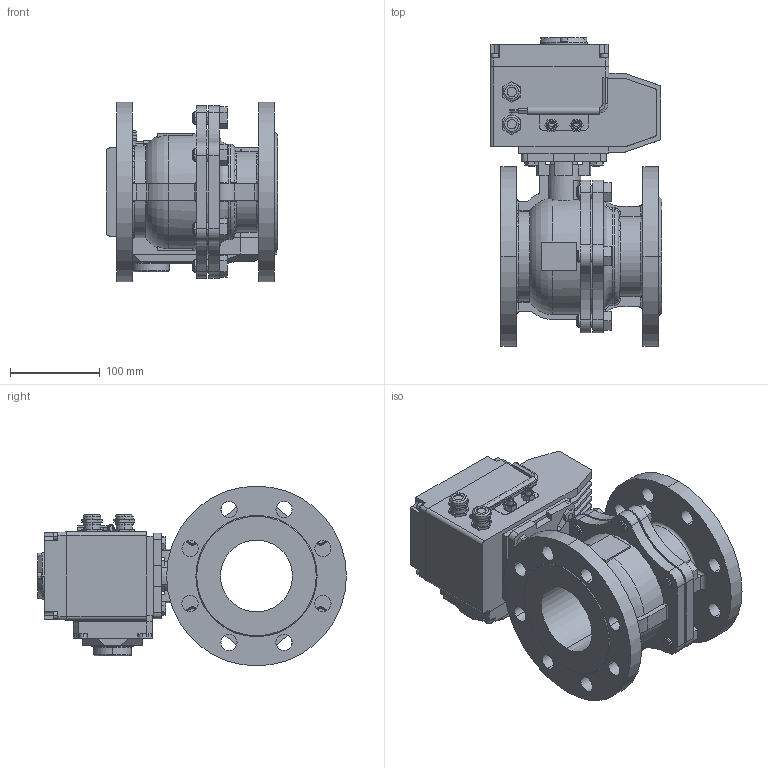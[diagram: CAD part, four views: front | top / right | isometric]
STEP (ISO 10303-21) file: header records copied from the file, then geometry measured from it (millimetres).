
FILE_DESCRIPTION((''),'2;1');
FILE_NAME('BV-22F_EAR_T_ASM','2025-03-03T',('USER'),(''),'PRO/ENGINEER BY PARAMETRIC TECHNOLOGY CORPORATION, 2011220','PRO/ENGINEER BY PARAMETRIC TECHNOLOGY CORPORATION, 2011220','');
FILE_SCHEMA(('CONFIG_CONTROL_DESIGN'));
Length unit declared in the file: millimetre
Products named in the file (15): KORPUS_KRAN_FL; BOLT_M14X30; SB_KRAN_FL_ASM; DET_1; V-11738-M5; V-11738-M4; DET_2; KREPLENIE; KLUCH; DET_3; G-5915-M8; ELECTROPRIVOD_ASM; ELECTROPRIVOD_WITH_DISPLAY_ASM; B-7798-M8-20; BV-22F_EAR_T_ASM
Assembly tree (35 placements, depth 4):
  BV-22F_EAR_T_ASM
    SB_KRAN_FL_ASM
      KORPUS_KRAN_FL
      BOLT_M14X30  x6
    ELECTROPRIVOD_WITH_DISPLAY_ASM
      ELECTROPRIVOD_ASM
        DET_1
        V-11738-M5  x10
        V-11738-M4  x4
        DET_2
        KREPLENIE
        KLUCH
        DET_3
        G-5915-M8  x2
    B-7798-M8-20  x4
Bounding box: 191 x 343.5 x 200 mm (x, y, z)
Volume: 4282468.7 mm3; surface area: 561613.9 mm2
Topology: 32 solids, 80 shells, 1607 faces, 4183 edges, 2740 vertices
Faces by surface type: plane 968, cylinder 507, cone 86, torus 26, bspline 20
Entity records: 41341 total; most frequent: CARTESIAN_POINT 8763, DIRECTION 6769, ORIENTED_EDGE 6598, EDGE_CURVE 3355, VECTOR 2341, LINE 2341, AXIS2_PLACEMENT_3D 2214, VERTEX_POINT 2212
